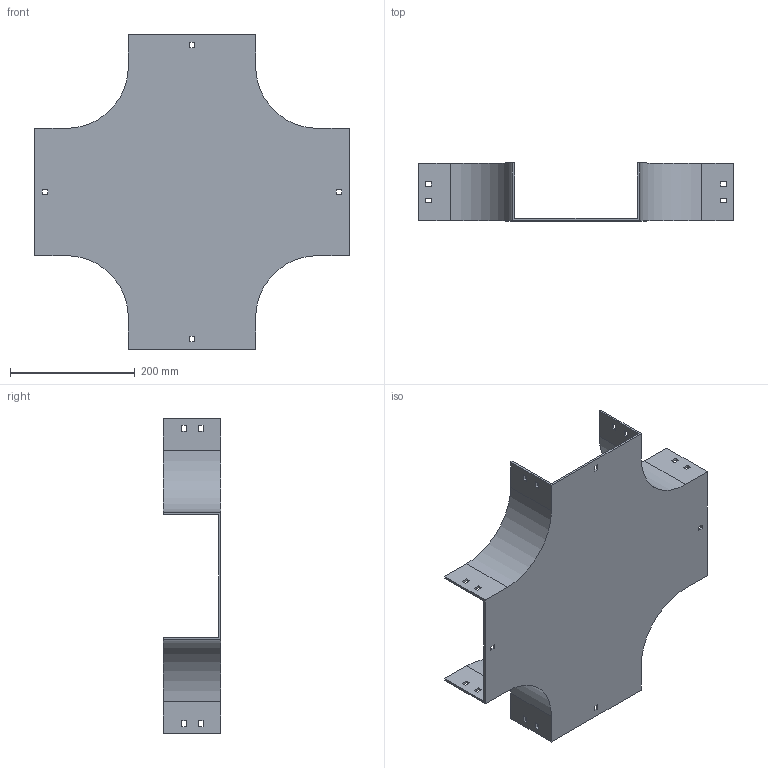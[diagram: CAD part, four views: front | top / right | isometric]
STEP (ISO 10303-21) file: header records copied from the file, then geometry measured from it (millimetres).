
FILE_DESCRIPTION (( 'STEP AP214' ), '1' );
FILE_NAME ('17B1I200.step', '2025-02-21T09:58:44', ( '' ), ( '' ), 'SwSTEP 2.0', 'SolidWorks 2023', '' );
FILE_SCHEMA (( 'AUTOMOTIVE_DESIGN' ));
Length unit declared in the file: millimetre
Products named in the file (1): 17B1I200
Bounding box: 504 x 92.5 x 504 mm (x, y, z)
Volume: 923107.6 mm3; surface area: 538775.2 mm2
Topology: 1 solids, 1 shells, 114 faces, 336 edges, 224 vertices
Faces by surface type: plane 106, cylinder 8
Entity records: 3839 total; most frequent: CARTESIAN_POINT 675, ORIENTED_EDGE 672, DIRECTION 582, EDGE_CURVE 336, LINE 320, VECTOR 320, VERTEX_POINT 224, EDGE_LOOP 154
